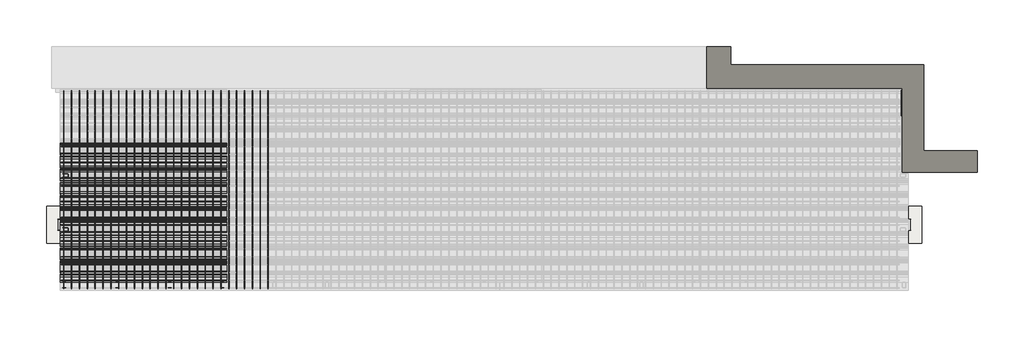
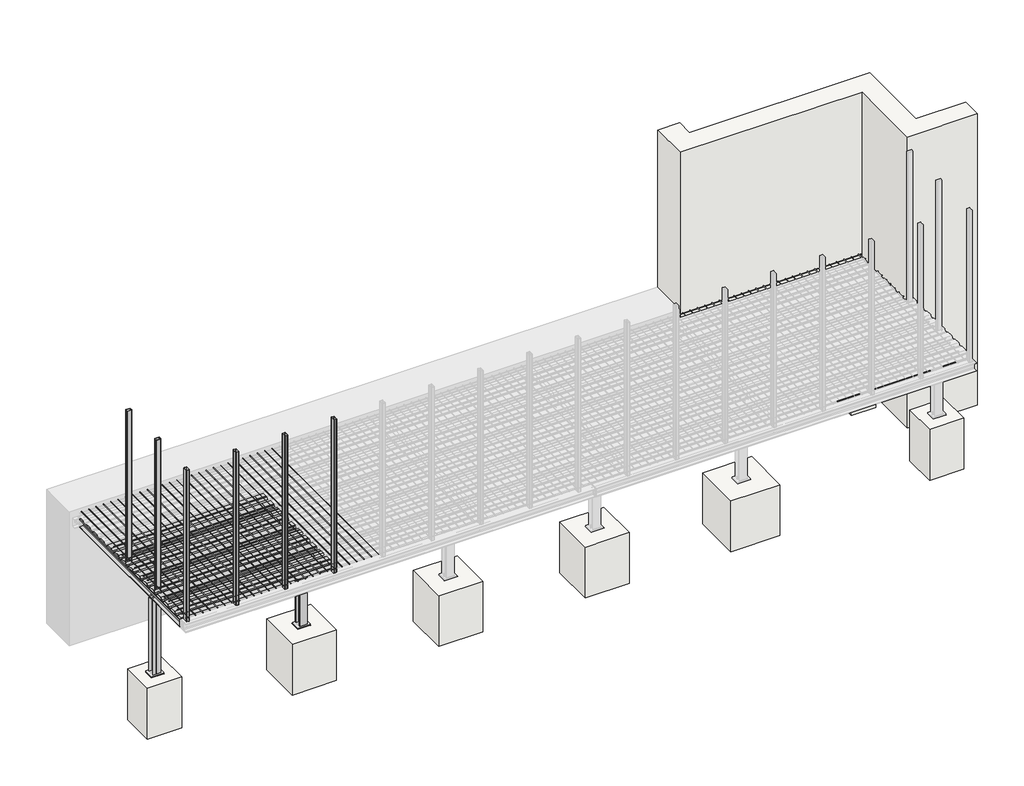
# One storey, part 1 of 36: 33 beams, 8 columns, 8 slabs, 2 plates.
"""IFC4 building model written with IfcOpenShell, lengths in millimetres."""

from ifc_helpers import new_model, si_unit, point, frame, frame_2d, origin, place, context, project, spatial, polyline, circle_curve, trimmed, segment, composite_curve, outline, extrude, faceted_brep, element, save

model = new_model("IFC4")

# Units and contexts
model_context = context("Model", 3, world=origin())
ifc_project = project(units=[si_unit("LENGTHUNIT", "METRE", prefix="MILLI")], contexts=[model_context])

# Site, building, storey
site = spatial("IfcSite", under=ifc_project)
building = spatial("IfcBuilding", under=site)
storey = spatial("IfcBuildingStorey", under=building, Name="Základy", Elevation=-1200.0)

# Beams
placement = place(None, origin())
element("IfcBeam", 1, ObjectType="D8", at=placement, inside=storey, context=model_context, shape_type="SweptSolid", body=[
    extrude(outline(composite_curve([segment(trimmed(circle_curve(frame_2d((-49.0, 27.5)), 4.0), [point((-49.0, 23.5))], [point((-49.0, 31.5))], False, "CARTESIAN"), True, "CONTINUOUS"), segment(trimmed(circle_curve(frame_2d((-49.0, 27.5)), 4.0), [point((-49.0, 31.5))], [point((-49.0, 23.5))], False, "CARTESIAN"), True, "CONTINUOUS")], self_intersect=False)), frame((0.0, 35.0, 0.0), z_axis=(0.0, 1.0, 0.0), x_axis=(0.0, 0.0, 1.0)), (0.0, 0.0, 1.0), 3780.0),
])
element("IfcBeam", 2, ObjectType="D8", at=placement, inside=storey, context=model_context, shape_type="SweptSolid", body=[
    extrude(outline(composite_curve([segment(trimmed(circle_curve(frame_2d((-49.0, 177.5)), 4.0), [point((-49.0, 173.5))], [point((-49.0, 181.5))], False, "CARTESIAN"), True, "CONTINUOUS"), segment(trimmed(circle_curve(frame_2d((-49.0, 177.5)), 4.0), [point((-49.0, 181.5))], [point((-49.0, 173.5))], False, "CARTESIAN"), True, "CONTINUOUS")], self_intersect=False)), frame((0.0, 35.0, 0.0), z_axis=(0.0, 1.0, 0.0), x_axis=(0.0, 0.0, 1.0)), (0.0, 0.0, 1.0), 3780.0),
])
element("IfcBeam", 3, ObjectType="D8", at=placement, inside=storey, context=model_context, shape_type="SweptSolid", body=[
    extrude(outline(composite_curve([segment(trimmed(circle_curve(frame_2d((-49.0, 327.5)), 4.0), [point((-49.0, 323.5))], [point((-49.0, 331.5))], False, "CARTESIAN"), True, "CONTINUOUS"), segment(trimmed(circle_curve(frame_2d((-49.0, 327.5)), 4.0), [point((-49.0, 331.5))], [point((-49.0, 323.5))], False, "CARTESIAN"), True, "CONTINUOUS")], self_intersect=False)), frame((0.0, 35.0, 0.0), z_axis=(0.0, 1.0, 0.0), x_axis=(0.0, 0.0, 1.0)), (0.0, 0.0, 1.0), 3780.0),
])
element("IfcBeam", 4, ObjectType="D8", at=placement, inside=storey, context=model_context, shape_type="SweptSolid", body=[
    extrude(outline(composite_curve([segment(trimmed(circle_curve(frame_2d((-49.0, 477.5)), 4.0), [point((-49.0, 473.5))], [point((-49.0, 481.5))], False, "CARTESIAN"), True, "CONTINUOUS"), segment(trimmed(circle_curve(frame_2d((-49.0, 477.5)), 4.0), [point((-49.0, 481.5))], [point((-49.0, 473.5))], False, "CARTESIAN"), True, "CONTINUOUS")], self_intersect=False)), frame((0.0, 35.0, 0.0), z_axis=(0.0, 1.0, 0.0), x_axis=(0.0, 0.0, 1.0)), (0.0, 0.0, 1.0), 3780.0),
])
element("IfcBeam", 5, ObjectType="D8", at=placement, inside=storey, context=model_context, shape_type="SweptSolid", body=[
    extrude(outline(composite_curve([segment(trimmed(circle_curve(frame_2d((-49.0, 627.5)), 4.0), [point((-49.0, 623.5))], [point((-49.0, 631.5))], False, "CARTESIAN"), True, "CONTINUOUS"), segment(trimmed(circle_curve(frame_2d((-49.0, 627.5)), 4.0), [point((-49.0, 631.5))], [point((-49.0, 623.5))], False, "CARTESIAN"), True, "CONTINUOUS")], self_intersect=False)), frame((0.0, 35.0, 0.0), z_axis=(0.0, 1.0, 0.0), x_axis=(0.0, 0.0, 1.0)), (0.0, 0.0, 1.0), 3780.0),
])
element("IfcBeam", 6, ObjectType="D8", at=placement, inside=storey, context=model_context, shape_type="SweptSolid", body=[
    extrude(outline(composite_curve([segment(trimmed(circle_curve(frame_2d((-49.0, 777.5)), 4.0), [point((-49.0, 773.5))], [point((-49.0, 781.5))], False, "CARTESIAN"), True, "CONTINUOUS"), segment(trimmed(circle_curve(frame_2d((-49.0, 777.5)), 4.0), [point((-49.0, 781.5))], [point((-49.0, 773.5))], False, "CARTESIAN"), True, "CONTINUOUS")], self_intersect=False)), frame((0.0, 35.0, 0.0), z_axis=(0.0, 1.0, 0.0), x_axis=(0.0, 0.0, 1.0)), (0.0, 0.0, 1.0), 3780.0),
])
element("IfcBeam", 7, ObjectType="D8", at=placement, inside=storey, context=model_context, shape_type="SweptSolid", body=[
    extrude(outline(composite_curve([segment(trimmed(circle_curve(frame_2d((-49.0, 927.5)), 4.0), [point((-49.0, 923.5))], [point((-49.0, 931.5))], False, "CARTESIAN"), True, "CONTINUOUS"), segment(trimmed(circle_curve(frame_2d((-49.0, 927.5)), 4.0), [point((-49.0, 931.5))], [point((-49.0, 923.5))], False, "CARTESIAN"), True, "CONTINUOUS")], self_intersect=False)), frame((0.0, 35.0, 0.0), z_axis=(0.0, 1.0, 0.0), x_axis=(0.0, 0.0, 1.0)), (0.0, 0.0, 1.0), 3780.0),
])
element("IfcBeam", 8, ObjectType="D8", at=placement, inside=storey, context=model_context, shape_type="SweptSolid", body=[
    extrude(outline(composite_curve([segment(trimmed(circle_curve(frame_2d((-49.0, 1077.5)), 4.0), [point((-49.0, 1073.5))], [point((-49.0, 1081.5))], False, "CARTESIAN"), True, "CONTINUOUS"), segment(trimmed(circle_curve(frame_2d((-49.0, 1077.5)), 4.0), [point((-49.0, 1081.5))], [point((-49.0, 1073.5))], False, "CARTESIAN"), True, "CONTINUOUS")], self_intersect=False)), frame((0.0, 35.0, 0.0), z_axis=(0.0, 1.0, 0.0), x_axis=(0.0, 0.0, 1.0)), (0.0, 0.0, 1.0), 3780.0),
])
element("IfcBeam", 9, ObjectType="D8", at=placement, inside=storey, context=model_context, shape_type="SweptSolid", body=[
    extrude(outline(composite_curve([segment(trimmed(circle_curve(frame_2d((-49.0, 1227.5)), 4.0), [point((-49.0, 1223.5))], [point((-49.0, 1231.5))], False, "CARTESIAN"), True, "CONTINUOUS"), segment(trimmed(circle_curve(frame_2d((-49.0, 1227.5)), 4.0), [point((-49.0, 1231.5))], [point((-49.0, 1223.5))], False, "CARTESIAN"), True, "CONTINUOUS")], self_intersect=False)), frame((0.0, 35.0, 0.0), z_axis=(0.0, 1.0, 0.0), x_axis=(0.0, 0.0, 1.0)), (0.0, 0.0, 1.0), 3780.0),
])
element("IfcBeam", 10, ObjectType="D8", at=placement, inside=storey, context=model_context, shape_type="SweptSolid", body=[
    extrude(outline(composite_curve([segment(trimmed(circle_curve(frame_2d((-49.0, 1377.5)), 4.0), [point((-49.0, 1373.5))], [point((-49.0, 1381.5))], False, "CARTESIAN"), True, "CONTINUOUS"), segment(trimmed(circle_curve(frame_2d((-49.0, 1377.5)), 4.0), [point((-49.0, 1381.5))], [point((-49.0, 1373.5))], False, "CARTESIAN"), True, "CONTINUOUS")], self_intersect=False)), frame((0.0, 35.0, 0.0), z_axis=(0.0, 1.0, 0.0), x_axis=(0.0, 0.0, 1.0)), (0.0, 0.0, 1.0), 3780.0),
])
element("IfcBeam", 11, ObjectType="D8", at=placement, inside=storey, context=model_context, shape_type="SweptSolid", body=[
    extrude(outline(composite_curve([segment(trimmed(circle_curve(frame_2d((-49.0, 1527.5)), 4.0), [point((-49.0, 1523.5))], [point((-49.0, 1531.5))], False, "CARTESIAN"), True, "CONTINUOUS"), segment(trimmed(circle_curve(frame_2d((-49.0, 1527.5)), 4.0), [point((-49.0, 1531.5))], [point((-49.0, 1523.5))], False, "CARTESIAN"), True, "CONTINUOUS")], self_intersect=False)), frame((0.0, 35.0, 0.0), z_axis=(0.0, 1.0, 0.0), x_axis=(0.0, 0.0, 1.0)), (0.0, 0.0, 1.0), 3780.0),
])
element("IfcBeam", 12, ObjectType="D8", at=placement, inside=storey, context=model_context, shape_type="SweptSolid", body=[
    extrude(outline(composite_curve([segment(trimmed(circle_curve(frame_2d((-49.0, 1677.5)), 4.0), [point((-49.0, 1673.5))], [point((-49.0, 1681.5))], False, "CARTESIAN"), True, "CONTINUOUS"), segment(trimmed(circle_curve(frame_2d((-49.0, 1677.5)), 4.0), [point((-49.0, 1681.5))], [point((-49.0, 1673.5))], False, "CARTESIAN"), True, "CONTINUOUS")], self_intersect=False)), frame((0.0, 35.0, 0.0), z_axis=(0.0, 1.0, 0.0), x_axis=(0.0, 0.0, 1.0)), (0.0, 0.0, 1.0), 3780.0),
])
element("IfcBeam", 13, ObjectType="D8", at=placement, inside=storey, context=model_context, shape_type="SweptSolid", body=[
    extrude(outline(composite_curve([segment(trimmed(circle_curve(frame_2d((-49.0, 1827.5)), 4.0), [point((-49.0, 1823.5))], [point((-49.0, 1831.5))], False, "CARTESIAN"), True, "CONTINUOUS"), segment(trimmed(circle_curve(frame_2d((-49.0, 1827.5)), 4.0), [point((-49.0, 1831.5))], [point((-49.0, 1823.5))], False, "CARTESIAN"), True, "CONTINUOUS")], self_intersect=False)), frame((0.0, 35.0, 0.0), z_axis=(0.0, 1.0, 0.0), x_axis=(0.0, 0.0, 1.0)), (0.0, 0.0, 1.0), 3780.0),
])
element("IfcBeam", 14, ObjectType="D8", at=placement, inside=storey, context=model_context, shape_type="SweptSolid", body=[
    extrude(outline(composite_curve([segment(trimmed(circle_curve(frame_2d((-49.0, 1977.5)), 4.0), [point((-49.0, 1973.5))], [point((-49.0, 1981.5))], False, "CARTESIAN"), True, "CONTINUOUS"), segment(trimmed(circle_curve(frame_2d((-49.0, 1977.5)), 4.0), [point((-49.0, 1981.5))], [point((-49.0, 1973.5))], False, "CARTESIAN"), True, "CONTINUOUS")], self_intersect=False)), frame((0.0, 35.0, 0.0), z_axis=(0.0, 1.0, 0.0), x_axis=(0.0, 0.0, 1.0)), (0.0, 0.0, 1.0), 3780.0),
])
element("IfcBeam", 15, ObjectType="D8", at=placement, inside=storey, context=model_context, shape_type="SweptSolid", body=[
    extrude(outline(composite_curve([segment(trimmed(circle_curve(frame_2d((-49.0, 2127.5)), 4.0), [point((-49.0, 2123.5))], [point((-49.0, 2131.5))], False, "CARTESIAN"), True, "CONTINUOUS"), segment(trimmed(circle_curve(frame_2d((-49.0, 2127.5)), 4.0), [point((-49.0, 2131.5))], [point((-49.0, 2123.5))], False, "CARTESIAN"), True, "CONTINUOUS")], self_intersect=False)), frame((0.0, 35.0, 0.0), z_axis=(0.0, 1.0, 0.0), x_axis=(0.0, 0.0, 1.0)), (0.0, 0.0, 1.0), 3780.0),
])
element("IfcBeam", 16, ObjectType="D8", at=placement, inside=storey, context=model_context, shape_type="SweptSolid", body=[
    extrude(outline(composite_curve([segment(trimmed(circle_curve(frame_2d((-49.0, 2277.5)), 4.0), [point((-49.0, 2273.5))], [point((-49.0, 2281.5))], False, "CARTESIAN"), True, "CONTINUOUS"), segment(trimmed(circle_curve(frame_2d((-49.0, 2277.5)), 4.0), [point((-49.0, 2281.5))], [point((-49.0, 2273.5))], False, "CARTESIAN"), True, "CONTINUOUS")], self_intersect=False)), frame((0.0, 35.0, 0.0), z_axis=(0.0, 1.0, 0.0), x_axis=(0.0, 0.0, 1.0)), (0.0, 0.0, 1.0), 3780.0),
])
element("IfcBeam", 17, ObjectType="D8", at=placement, inside=storey, context=model_context, shape_type="SweptSolid", body=[
    extrude(outline(composite_curve([segment(trimmed(circle_curve(frame_2d((-49.0, 2427.5)), 4.0), [point((-49.0, 2423.5))], [point((-49.0, 2431.5))], False, "CARTESIAN"), True, "CONTINUOUS"), segment(trimmed(circle_curve(frame_2d((-49.0, 2427.5)), 4.0), [point((-49.0, 2431.5))], [point((-49.0, 2423.5))], False, "CARTESIAN"), True, "CONTINUOUS")], self_intersect=False)), frame((0.0, 35.0, 0.0), z_axis=(0.0, 1.0, 0.0), x_axis=(0.0, 0.0, 1.0)), (0.0, 0.0, 1.0), 3780.0),
])
element("IfcBeam", 18, ObjectType="D8", at=placement, inside=storey, context=model_context, shape_type="SweptSolid", body=[
    extrude(outline(composite_curve([segment(trimmed(circle_curve(frame_2d((-49.0, 2577.5)), 4.0), [point((-49.0, 2573.5))], [point((-49.0, 2581.5))], False, "CARTESIAN"), True, "CONTINUOUS"), segment(trimmed(circle_curve(frame_2d((-49.0, 2577.5)), 4.0), [point((-49.0, 2581.5))], [point((-49.0, 2573.5))], False, "CARTESIAN"), True, "CONTINUOUS")], self_intersect=False)), frame((0.0, 35.0, 0.0), z_axis=(0.0, 1.0, 0.0), x_axis=(0.0, 0.0, 1.0)), (0.0, 0.0, 1.0), 3780.0),
])
element("IfcBeam", 19, ObjectType="D8", at=placement, inside=storey, context=model_context, shape_type="SweptSolid", body=[
    extrude(outline(composite_curve([segment(trimmed(circle_curve(frame_2d((-49.0, 2727.5)), 4.0), [point((-49.0, 2723.5))], [point((-49.0, 2731.5))], False, "CARTESIAN"), True, "CONTINUOUS"), segment(trimmed(circle_curve(frame_2d((-49.0, 2727.5)), 4.0), [point((-49.0, 2731.5))], [point((-49.0, 2723.5))], False, "CARTESIAN"), True, "CONTINUOUS")], self_intersect=False)), frame((0.0, 35.0, 0.0), z_axis=(0.0, 1.0, 0.0), x_axis=(0.0, 0.0, 1.0)), (0.0, 0.0, 1.0), 3780.0),
])
element("IfcBeam", 20, ObjectType="D8", at=placement, inside=storey, context=model_context, shape_type="SweptSolid", body=[
    extrude(outline(composite_curve([segment(trimmed(circle_curve(frame_2d((-49.0, 2877.5)), 4.0), [point((-49.0, 2873.5))], [point((-49.0, 2881.5))], False, "CARTESIAN"), True, "CONTINUOUS"), segment(trimmed(circle_curve(frame_2d((-49.0, 2877.5)), 4.0), [point((-49.0, 2881.5))], [point((-49.0, 2873.5))], False, "CARTESIAN"), True, "CONTINUOUS")], self_intersect=False)), frame((0.0, 35.0, 0.0), z_axis=(0.0, 1.0, 0.0), x_axis=(0.0, 0.0, 1.0)), (0.0, 0.0, 1.0), 3780.0),
])
element("IfcBeam", 21, ObjectType="D8", at=placement, inside=storey, context=model_context, shape_type="SweptSolid", body=[
    extrude(outline(composite_curve([segment(trimmed(circle_curve(frame_2d((-49.0, 3027.5)), 4.0), [point((-49.0, 3023.5))], [point((-49.0, 3031.5))], False, "CARTESIAN"), True, "CONTINUOUS"), segment(trimmed(circle_curve(frame_2d((-49.0, 3027.5)), 4.0), [point((-49.0, 3031.5))], [point((-49.0, 3023.5))], False, "CARTESIAN"), True, "CONTINUOUS")], self_intersect=False)), frame((0.0, 35.0, 0.0), z_axis=(0.0, 1.0, 0.0), x_axis=(0.0, 0.0, 1.0)), (0.0, 0.0, 1.0), 3780.0),
])
element("IfcBeam", 22, ObjectType="D8", at=placement, inside=storey, context=model_context, shape_type="SweptSolid", body=[
    extrude(outline(composite_curve([segment(trimmed(circle_curve(frame_2d((-49.0, 3177.5)), 4.0), [point((-49.0, 3173.5))], [point((-49.0, 3181.5))], False, "CARTESIAN"), True, "CONTINUOUS"), segment(trimmed(circle_curve(frame_2d((-49.0, 3177.5)), 4.0), [point((-49.0, 3181.5))], [point((-49.0, 3173.5))], False, "CARTESIAN"), True, "CONTINUOUS")], self_intersect=False)), frame((0.0, 35.0, 0.0), z_axis=(0.0, 1.0, 0.0), x_axis=(0.0, 0.0, 1.0)), (0.0, 0.0, 1.0), 3780.0),
])
element("IfcBeam", 23, ObjectType="D8", at=placement, inside=storey, context=model_context, shape_type="SweptSolid", body=[
    extrude(outline(composite_curve([segment(trimmed(circle_curve(frame_2d((-49.0, 3327.5)), 4.0), [point((-49.0, 3323.5))], [point((-49.0, 3331.5))], False, "CARTESIAN"), True, "CONTINUOUS"), segment(trimmed(circle_curve(frame_2d((-49.0, 3327.5)), 4.0), [point((-49.0, 3331.5))], [point((-49.0, 3323.5))], False, "CARTESIAN"), True, "CONTINUOUS")], self_intersect=False)), frame((0.0, 35.0, 0.0), z_axis=(0.0, 1.0, 0.0), x_axis=(0.0, 0.0, 1.0)), (0.0, 0.0, 1.0), 3780.0),
])
element("IfcBeam", 24, ObjectType="D8", at=placement, inside=storey, context=model_context, shape_type="SweptSolid", body=[
    extrude(outline(composite_curve([segment(trimmed(circle_curve(frame_2d((-49.0, 3477.5)), 4.0), [point((-49.0, 3473.5))], [point((-49.0, 3481.5))], False, "CARTESIAN"), True, "CONTINUOUS"), segment(trimmed(circle_curve(frame_2d((-49.0, 3477.5)), 4.0), [point((-49.0, 3481.5))], [point((-49.0, 3473.5))], False, "CARTESIAN"), True, "CONTINUOUS")], self_intersect=False)), frame((0.0, 35.0, 0.0), z_axis=(0.0, 1.0, 0.0), x_axis=(0.0, 0.0, 1.0)), (0.0, 0.0, 1.0), 3780.0),
])
element("IfcBeam", 25, ObjectType="D8", at=placement, inside=storey, context=model_context, shape_type="SweptSolid", body=[
    extrude(outline(composite_curve([segment(trimmed(circle_curve(frame_2d((-49.0, 3627.5)), 4.0), [point((-49.0, 3623.5))], [point((-49.0, 3631.5))], False, "CARTESIAN"), True, "CONTINUOUS"), segment(trimmed(circle_curve(frame_2d((-49.0, 3627.5)), 4.0), [point((-49.0, 3631.5))], [point((-49.0, 3623.5))], False, "CARTESIAN"), True, "CONTINUOUS")], self_intersect=False)), frame((0.0, 35.0, 0.0), z_axis=(0.0, 1.0, 0.0), x_axis=(0.0, 0.0, 1.0)), (0.0, 0.0, 1.0), 3780.0),
])
element("IfcBeam", 26, ObjectType="D8", at=placement, inside=storey, context=model_context, shape_type="SweptSolid", body=[
    extrude(outline(composite_curve([segment(trimmed(circle_curve(frame_2d((-49.0, 3777.5)), 4.0), [point((-49.0, 3773.5))], [point((-49.0, 3781.5))], False, "CARTESIAN"), True, "CONTINUOUS"), segment(trimmed(circle_curve(frame_2d((-49.0, 3777.5)), 4.0), [point((-49.0, 3781.5))], [point((-49.0, 3773.5))], False, "CARTESIAN"), True, "CONTINUOUS")], self_intersect=False)), frame((0.0, 35.0, 0.0), z_axis=(0.0, 1.0, 0.0), x_axis=(0.0, 0.0, 1.0)), (0.0, 0.0, 1.0), 3780.0),
])
element("IfcBeam", 27, ObjectType="D8", at=placement, inside=storey, context=model_context, shape_type="SweptSolid", body=[
    extrude(outline(composite_curve([segment(trimmed(circle_curve(frame_2d((-49.0, 3927.5)), 4.0), [point((-49.0, 3923.5))], [point((-49.0, 3931.5))], False, "CARTESIAN"), True, "CONTINUOUS"), segment(trimmed(circle_curve(frame_2d((-49.0, 3927.5)), 4.0), [point((-49.0, 3931.5))], [point((-49.0, 3923.5))], False, "CARTESIAN"), True, "CONTINUOUS")], self_intersect=False)), frame((0.0, 35.0, 0.0), z_axis=(0.0, 1.0, 0.0), x_axis=(0.0, 0.0, 1.0)), (0.0, 0.0, 1.0), 3780.0),
])
element("IfcBeam", 28, ObjectType="HEA120", at=placement, inside=storey, context=model_context, shape_type="SweptSolid", body=[
    extrude(outline(composite_curve([segment(polyline([(1200.0, -193.0), (1320.0, -193.0), (1320.0, -201.0), (1274.5, -201.0)]), True, "CONTINUOUS"), segment(trimmed(circle_curve(frame_2d((1274.5, -213.0)), 12.0), [point((1274.5, -201.0))], [point((1262.5, -213.0))], True, "CARTESIAN"), True, "CONTINUOUS"), segment(polyline([(1262.5, -213.0), (1262.5, -287.0)]), True, "CONTINUOUS"), segment(trimmed(circle_curve(frame_2d((1274.5, -287.0)), 12.0), [point((1262.5, -287.0))], [point((1274.5, -299.0))], True, "CARTESIAN"), True, "CONTINUOUS"), segment(polyline([(1274.5, -299.0), (1320.0, -299.0), (1320.0, -307.0), (1200.0, -307.0), (1200.0, -299.0), (1245.5, -299.0)]), True, "CONTINUOUS"), segment(trimmed(circle_curve(frame_2d((1245.5, -287.0)), 12.0), [point((1245.5, -299.0))], [point((1257.5, -287.0))], True, "CARTESIAN"), True, "CONTINUOUS"), segment(polyline([(1257.5, -287.0), (1257.5, -213.0)]), True, "CONTINUOUS"), segment(trimmed(circle_curve(frame_2d((1245.5, -213.0)), 12.0), [point((1257.5, -213.0))], [point((1245.5, -201.0))], True, "CARTESIAN"), True, "CONTINUOUS"), segment(polyline([(1245.5, -201.0), (1200.0, -201.0), (1200.0, -193.0)]), True, "CONTINUOUS")], self_intersect=False)), frame((160.0, 0.0, 0.0), z_axis=(1.0, 0.0, 0.0), x_axis=(0.0, 1.0, 0.0)), (0.0, 0.0, 1.0), 2780.0),
])
element("IfcBeam", 29, ObjectType="HEB180", at=placement, inside=storey, context=model_context, shape_type="SweptSolid", body=[
    extrude(outline(composite_curve([segment(polyline([(-340.0, 3140.0), (-326.0, 3140.0), (-326.0, 3069.25)]), True, "CONTINUOUS"), segment(trimmed(circle_curve(frame_2d((-311.0, 3069.25)), 15.0), [point((-326.0, 3069.25))], [point((-311.0, 3054.25))], True, "CARTESIAN"), True, "CONTINUOUS"), segment(polyline([(-311.0, 3054.25), (-189.0, 3054.25)]), True, "CONTINUOUS"), segment(trimmed(circle_curve(frame_2d((-189.0, 3069.25)), 15.0), [point((-189.0, 3054.25))], [point((-174.0, 3069.25))], True, "CARTESIAN"), True, "CONTINUOUS"), segment(polyline([(-174.0, 3069.25), (-174.0, 3140.0), (-160.0, 3140.0), (-160.0, 2960.0), (-174.0, 2960.0), (-174.0, 3030.75)]), True, "CONTINUOUS"), segment(trimmed(circle_curve(frame_2d((-189.0, 3030.75)), 15.0), [point((-174.0, 3030.75))], [point((-189.0, 3045.75))], True, "CARTESIAN"), True, "CONTINUOUS"), segment(polyline([(-189.0, 3045.75), (-311.0, 3045.75)]), True, "CONTINUOUS"), segment(trimmed(circle_curve(frame_2d((-311.0, 3030.75)), 15.0), [point((-311.0, 3045.75))], [point((-326.0, 3030.75))], True, "CARTESIAN"), True, "CONTINUOUS"), segment(polyline([(-326.0, 3030.75), (-326.0, 2960.0), (-340.0, 2960.0), (-340.0, 3140.0)]), True, "CONTINUOUS")], self_intersect=False)), frame((0.0, 210.0, 0.0), z_axis=(0.0, 1.0, 0.0), x_axis=(0.0, 0.0, 1.0)), (0.0, 0.0, 1.0), 3557.0),
])
element("IfcBeam", 30, ObjectType="HEB180", at=placement, inside=storey, context=model_context, shape_type="SweptSolid", body=[
    extrude(outline(composite_curve([segment(polyline([(-340.0, -40.0), (-340.0, 140.0), (-326.0, 140.0), (-326.0, 69.25)]), True, "CONTINUOUS"), segment(trimmed(circle_curve(frame_2d((-311.0, 69.25)), 15.0), [point((-326.0, 69.25))], [point((-311.0, 54.25))], True, "CARTESIAN"), True, "CONTINUOUS"), segment(polyline([(-311.0, 54.25), (-189.0, 54.25)]), True, "CONTINUOUS"), segment(trimmed(circle_curve(frame_2d((-189.0, 69.25)), 15.0), [point((-189.0, 54.25))], [point((-174.0, 69.25))], True, "CARTESIAN"), True, "CONTINUOUS"), segment(polyline([(-174.0, 69.25), (-174.0, 140.0), (-160.0, 140.0), (-160.0, -40.0), (-174.0, -40.0), (-174.0, 30.75)]), True, "CONTINUOUS"), segment(trimmed(circle_curve(frame_2d((-189.0, 30.75)), 15.0), [point((-174.0, 30.75))], [point((-189.0, 45.75))], True, "CARTESIAN"), True, "CONTINUOUS"), segment(polyline([(-189.0, 45.75), (-311.0, 45.75)]), True, "CONTINUOUS"), segment(trimmed(circle_curve(frame_2d((-311.0, 30.75)), 15.0), [point((-311.0, 45.75))], [point((-326.0, 30.75))], True, "CARTESIAN"), True, "CONTINUOUS"), segment(polyline([(-326.0, 30.75), (-326.0, -40.0), (-340.0, -40.0)]), True, "CONTINUOUS")], self_intersect=False)), frame((0.0, 210.0, 0.0), z_axis=(0.0, 1.0, 0.0), x_axis=(0.0, 0.0, 1.0)), (0.0, 0.0, 1.0), 3557.0),
])
element("IfcBeam", 31, ObjectType="TR50/250", at=placement, inside=storey, context=model_context, shape_type="SweptSolid", body=[
    extrude(outline(polyline([(2802.7875602, -160.0099992), (2772.2875602, -111.5000008), (2637.6975638, -111.5000008), (2607.1975638, -160.0000008), (2552.7875754, -160.0000008), (2522.2875754, -111.5000008), (2387.6975715, -111.5000008), (2357.1975715, -160.0000008), (2302.7875697, -160.0000008), (2272.2875716, -111.5000008), (2137.6975638, -111.5000008), (2107.1975638, -160.0000008), (2052.7875602, -160.0000008), (2022.2875602, -111.5000008), (1887.6975638, -111.5000008), (1857.1975638, -160.0000008), (1802.7875602, -160.0000008), (1790.7375724, -139.4300002), (1803.1975638, -159.2500008), (1856.7875602, -159.2500008), (1887.2875602, -110.7500008), (2022.6975638, -110.7500008), (2053.1975638, -159.2500008), (2106.7875754, -159.2500008), (2137.2875754, -110.7500008), (2272.6975715, -110.7500008), (2303.1975695, -159.2500008), (2356.7875716, -159.2500008), (2387.2875678, -110.7500008), (2522.6975638, -110.7500008), (2553.1975638, -159.2500008), (2606.7875602, -159.2500008), (2637.2875602, -110.7500008), (2772.6975638, -110.7500008), (2803.1975638, -159.2500008), (2839.9975821, -160.0000008), (2802.7875602, -160.0099992)])), frame((-40.0, 0.0, 0.0), z_axis=(1.0, 0.0, 0.0), x_axis=(0.0, 1.0, 0.0)), (0.0, 0.0, 1.0), 3180.0),
])
element("IfcBeam", 32, ObjectType="TR50/250", at=placement, inside=storey, context=model_context, shape_type="SweptSolid", body=[
    extrude(outline(polyline([(1802.7875602, -160.0099992), (1772.2875602, -111.5000008), (1637.6975638, -111.5000008), (1607.1975638, -160.0000008), (1552.7875754, -160.0000008), (1522.2875754, -111.5000008), (1387.6975715, -111.5000008), (1357.1975715, -160.0000008), (1302.7875697, -160.0000008), (1272.2875716, -111.5000008), (1137.6975638, -111.5000008), (1107.1975638, -160.0000008), (1052.7875602, -160.0000008), (1022.2875602, -111.5000008), (887.6975638, -111.5000008), (857.1975638, -160.0000008), (802.7875602, -160.0000008), (790.7375724, -139.4300002), (803.1975638, -159.2500008), (856.7875602, -159.2500008), (887.2875602, -110.7500008), (1022.6975638, -110.7500008), (1053.1975638, -159.2500008), (1106.7875754, -159.2500008), (1137.2875754, -110.7500008), (1272.6975715, -110.7500008), (1303.1975695, -159.2500008), (1356.7875716, -159.2500008), (1387.2875678, -110.7500008), (1522.6975638, -110.7500008), (1553.1975638, -159.2500008), (1606.7875602, -159.2500008), (1637.2875602, -110.7500008), (1772.6975638, -110.7500008), (1803.1975638, -159.2500008), (1839.9975821, -160.0000008), (1802.7875602, -160.0099992)])), frame((-40.0, 0.0, 0.0), z_axis=(1.0, 0.0, 0.0), x_axis=(0.0, 1.0, 0.0)), (0.0, 0.0, 1.0), 3180.0),
])
element("IfcBeam", 33, ObjectType="TR50/250", at=placement, inside=storey, context=model_context, shape_type="SweptSolid", body=[
    extrude(outline(polyline([(802.7875602, -160.0099992), (772.2875602, -111.5000008), (637.6975638, -111.5000008), (607.1975638, -160.0000008), (552.7875754, -160.0000008), (522.2875754, -111.5000008), (387.6975715, -111.5000008), (357.1975715, -160.0000008), (302.7875697, -160.0000008), (272.2875716, -111.5000008), (160.0, -111.5000008), (160.0, -110.7500008), (272.6975715, -110.7500008), (303.1975695, -159.2500008), (356.7875716, -159.2500008), (387.2875678, -110.7500008), (522.6975638, -110.7500008), (553.1975638, -159.2500008), (606.7875602, -159.2500008), (637.2875602, -110.7500008), (772.6975638, -110.7500008), (803.1975638, -159.2500008), (839.9975821, -160.0000008), (802.7875602, -160.0099992)])), frame((-40.0, 0.0, 0.0), z_axis=(1.0, 0.0, 0.0), x_axis=(0.0, 1.0, 0.0)), (0.0, 0.0, 1.0), 3180.0),
])

# Columns
element("IfcColumn", 34, ObjectType="RHS100*60*3.2", at=placement, inside=storey, context=model_context, shape_type="SweptSolid", body=[
    extrude(outline(composite_curve([segment(polyline([(3073.6, 60.0), (3026.4, 60.0)]), True, "CONTINUOUS"), segment(trimmed(circle_curve(frame_2d((3026.4, 66.4)), 6.4), [point((3026.4, 60.0))], [point((3020.0, 66.4))], False, "CARTESIAN"), True, "CONTINUOUS"), segment(polyline([(3020.0, 66.4), (3020.0, 153.6)]), True, "CONTINUOUS"), segment(trimmed(circle_curve(frame_2d((3026.4, 153.6)), 6.4), [point((3020.0, 153.6))], [point((3026.4, 160.0))], False, "CARTESIAN"), True, "CONTINUOUS"), segment(polyline([(3026.4, 160.0), (3073.6, 160.0)]), True, "CONTINUOUS"), segment(trimmed(circle_curve(frame_2d((3073.6, 153.6)), 6.4), [point((3073.6, 160.0))], [point((3080.0, 153.6))], False, "CARTESIAN"), True, "CONTINUOUS"), segment(polyline([(3080.0, 153.6), (3080.0, 66.4)]), True, "CONTINUOUS"), segment(trimmed(circle_curve(frame_2d((3073.6, 66.4)), 6.4), [point((3080.0, 66.4))], [point((3073.6, 60.0))], False, "CARTESIAN"), True, "CONTINUOUS")], self_intersect=False), holes=[composite_curve([segment(trimmed(circle_curve(frame_2d((3073.6, 66.4)), 3.2), [point((3073.6, 63.2))], [point((3076.8, 66.4))], True, "CARTESIAN"), True, "CONTINUOUS"), segment(polyline([(3076.8, 66.4), (3076.8, 153.6)]), True, "CONTINUOUS"), segment(trimmed(circle_curve(frame_2d((3073.6, 153.6)), 3.2), [point((3076.8, 153.6))], [point((3073.6, 156.8))], True, "CARTESIAN"), True, "CONTINUOUS"), segment(polyline([(3073.6, 156.8), (3026.4, 156.8)]), True, "CONTINUOUS"), segment(trimmed(circle_curve(frame_2d((3026.4, 153.6)), 3.2), [point((3026.4, 156.8))], [point((3023.2, 153.6))], True, "CARTESIAN"), True, "CONTINUOUS"), segment(polyline([(3023.2, 153.6), (3023.2, 66.4)]), True, "CONTINUOUS"), segment(trimmed(circle_curve(frame_2d((3026.4, 66.4)), 3.2), [point((3023.2, 66.4))], [point((3026.4, 63.2))], True, "CARTESIAN"), True, "CONTINUOUS"), segment(polyline([(3026.4, 63.2), (3073.6, 63.2)]), True, "CONTINUOUS")], self_intersect=False)]), frame((0.0, 0.0, -160.0), z_axis=(0.0, 0.0, 1.0), x_axis=(1.0, 0.0, 0.0)), (0.0, 0.0, 1.0), 3320.0),
])
element("IfcColumn", 35, ObjectType="RHS100*60*3.2", at=placement, inside=storey, context=model_context, shape_type="SweptSolid", body=[
    extrude(outline(composite_curve([segment(polyline([(10.0, 1146.4), (10.0, 1193.6)]), True, "CONTINUOUS"), segment(trimmed(circle_curve(frame_2d((16.4, 1193.6)), 6.4), [point((10.0, 1193.6))], [point((16.4, 1200.0))], False, "CARTESIAN"), True, "CONTINUOUS"), segment(polyline([(16.4, 1200.0), (103.6, 1200.0)]), True, "CONTINUOUS"), segment(trimmed(circle_curve(frame_2d((103.6, 1193.6)), 6.4), [point((103.6, 1200.0))], [point((110.0, 1193.6))], False, "CARTESIAN"), True, "CONTINUOUS"), segment(polyline([(110.0, 1193.6), (110.0, 1146.4)]), True, "CONTINUOUS"), segment(trimmed(circle_curve(frame_2d((103.6, 1146.4)), 6.4), [point((110.0, 1146.4))], [point((103.6, 1140.0))], False, "CARTESIAN"), True, "CONTINUOUS"), segment(polyline([(103.6, 1140.0), (16.4, 1140.0)]), True, "CONTINUOUS"), segment(trimmed(circle_curve(frame_2d((16.4, 1146.4)), 6.4), [point((16.4, 1140.0))], [point((10.0, 1146.4))], False, "CARTESIAN"), True, "CONTINUOUS")], self_intersect=False), holes=[composite_curve([segment(trimmed(circle_curve(frame_2d((16.4, 1146.4)), 3.2), [point((13.2, 1146.4))], [point((16.4, 1143.2))], True, "CARTESIAN"), True, "CONTINUOUS"), segment(polyline([(16.4, 1143.2), (103.6, 1143.2)]), True, "CONTINUOUS"), segment(trimmed(circle_curve(frame_2d((103.6, 1146.4)), 3.2), [point((103.6, 1143.2))], [point((106.8, 1146.4))], True, "CARTESIAN"), True, "CONTINUOUS"), segment(polyline([(106.8, 1146.4), (106.8, 1193.6)]), True, "CONTINUOUS"), segment(trimmed(circle_curve(frame_2d((103.6, 1193.6)), 3.2), [point((106.8, 1193.6))], [point((103.6, 1196.8))], True, "CARTESIAN"), True, "CONTINUOUS"), segment(polyline([(103.6, 1196.8), (16.4, 1196.8)]), True, "CONTINUOUS"), segment(trimmed(circle_curve(frame_2d((16.4, 1193.6)), 3.2), [point((16.4, 1196.8))], [point((13.2, 1193.6))], True, "CARTESIAN"), True, "CONTINUOUS"), segment(polyline([(13.2, 1193.6), (13.2, 1146.4)]), True, "CONTINUOUS")], self_intersect=False)]), frame((0.0, 0.0, -160.0), z_axis=(0.0, 0.0, 1.0), x_axis=(1.0, 0.0, 0.0)), (0.0, 0.0, 1.0), 3280.0),
])
element("IfcColumn", 36, ObjectType="RHS100*60*3.2", at=placement, inside=storey, context=model_context, shape_type="SweptSolid", body=[
    extrude(outline(composite_curve([segment(polyline([(2073.6, 60.0), (2026.4, 60.0)]), True, "CONTINUOUS"), segment(trimmed(circle_curve(frame_2d((2026.4, 66.4)), 6.4), [point((2026.4, 60.0))], [point((2020.0, 66.4))], False, "CARTESIAN"), True, "CONTINUOUS"), segment(polyline([(2020.0, 66.4), (2020.0, 153.6)]), True, "CONTINUOUS"), segment(trimmed(circle_curve(frame_2d((2026.4, 153.6)), 6.4), [point((2020.0, 153.6))], [point((2026.4, 160.0))], False, "CARTESIAN"), True, "CONTINUOUS"), segment(polyline([(2026.4, 160.0), (2073.6, 160.0)]), True, "CONTINUOUS"), segment(trimmed(circle_curve(frame_2d((2073.6, 153.6)), 6.4), [point((2073.6, 160.0))], [point((2080.0, 153.6))], False, "CARTESIAN"), True, "CONTINUOUS"), segment(polyline([(2080.0, 153.6), (2080.0, 66.4)]), True, "CONTINUOUS"), segment(trimmed(circle_curve(frame_2d((2073.6, 66.4)), 6.4), [point((2080.0, 66.4))], [point((2073.6, 60.0))], False, "CARTESIAN"), True, "CONTINUOUS")], self_intersect=False), holes=[composite_curve([segment(trimmed(circle_curve(frame_2d((2073.6, 66.4)), 3.2), [point((2073.6, 63.2))], [point((2076.8, 66.4))], True, "CARTESIAN"), True, "CONTINUOUS"), segment(polyline([(2076.8, 66.4), (2076.8, 153.6)]), True, "CONTINUOUS"), segment(trimmed(circle_curve(frame_2d((2073.6, 153.6)), 3.2), [point((2076.8, 153.6))], [point((2073.6, 156.8))], True, "CARTESIAN"), True, "CONTINUOUS"), segment(polyline([(2073.6, 156.8), (2026.4, 156.8)]), True, "CONTINUOUS"), segment(trimmed(circle_curve(frame_2d((2026.4, 153.6)), 3.2), [point((2026.4, 156.8))], [point((2023.2, 153.6))], True, "CARTESIAN"), True, "CONTINUOUS"), segment(polyline([(2023.2, 153.6), (2023.2, 66.4)]), True, "CONTINUOUS"), segment(trimmed(circle_curve(frame_2d((2026.4, 66.4)), 3.2), [point((2023.2, 66.4))], [point((2026.4, 63.2))], True, "CARTESIAN"), True, "CONTINUOUS"), segment(polyline([(2026.4, 63.2), (2073.6, 63.2)]), True, "CONTINUOUS")], self_intersect=False)]), frame((0.0, 0.0, -160.0), z_axis=(0.0, 0.0, 1.0), x_axis=(1.0, 0.0, 0.0)), (0.0, 0.0, 1.0), 3320.0),
])
element("IfcColumn", 37, ObjectType="RHS100*60*3.2", at=placement, inside=storey, context=model_context, shape_type="SweptSolid", body=[
    extrude(outline(composite_curve([segment(polyline([(1073.6, 60.0), (1026.4, 60.0)]), True, "CONTINUOUS"), segment(trimmed(circle_curve(frame_2d((1026.4, 66.4)), 6.4), [point((1026.4, 60.0))], [point((1020.0, 66.4))], False, "CARTESIAN"), True, "CONTINUOUS"), segment(polyline([(1020.0, 66.4), (1020.0, 153.6)]), True, "CONTINUOUS"), segment(trimmed(circle_curve(frame_2d((1026.4, 153.6)), 6.4), [point((1020.0, 153.6))], [point((1026.4, 160.0))], False, "CARTESIAN"), True, "CONTINUOUS"), segment(polyline([(1026.4, 160.0), (1073.6, 160.0)]), True, "CONTINUOUS"), segment(trimmed(circle_curve(frame_2d((1073.6, 153.6)), 6.4), [point((1073.6, 160.0))], [point((1080.0, 153.6))], False, "CARTESIAN"), True, "CONTINUOUS"), segment(polyline([(1080.0, 153.6), (1080.0, 66.4)]), True, "CONTINUOUS"), segment(trimmed(circle_curve(frame_2d((1073.6, 66.4)), 6.4), [point((1080.0, 66.4))], [point((1073.6, 60.0))], False, "CARTESIAN"), True, "CONTINUOUS")], self_intersect=False), holes=[composite_curve([segment(trimmed(circle_curve(frame_2d((1073.6, 66.4)), 3.2), [point((1073.6, 63.2))], [point((1076.8, 66.4))], True, "CARTESIAN"), True, "CONTINUOUS"), segment(polyline([(1076.8, 66.4), (1076.8, 153.6)]), True, "CONTINUOUS"), segment(trimmed(circle_curve(frame_2d((1073.6, 153.6)), 3.2), [point((1076.8, 153.6))], [point((1073.6, 156.8))], True, "CARTESIAN"), True, "CONTINUOUS"), segment(polyline([(1073.6, 156.8), (1026.4, 156.8)]), True, "CONTINUOUS"), segment(trimmed(circle_curve(frame_2d((1026.4, 153.6)), 3.2), [point((1026.4, 156.8))], [point((1023.2, 153.6))], True, "CARTESIAN"), True, "CONTINUOUS"), segment(polyline([(1023.2, 153.6), (1023.2, 66.4)]), True, "CONTINUOUS"), segment(trimmed(circle_curve(frame_2d((1026.4, 66.4)), 3.2), [point((1023.2, 66.4))], [point((1026.4, 63.2))], True, "CARTESIAN"), True, "CONTINUOUS"), segment(polyline([(1026.4, 63.2), (1073.6, 63.2)]), True, "CONTINUOUS")], self_intersect=False)]), frame((0.0, 0.0, -160.0), z_axis=(0.0, 0.0, 1.0), x_axis=(1.0, 0.0, 0.0)), (0.0, 0.0, 1.0), 3320.0),
])
element("IfcColumn", 38, ObjectType="RHS100*60*3.2", at=placement, inside=storey, context=model_context, shape_type="SweptSolid", body=[
    extrude(outline(composite_curve([segment(polyline([(63.6, 60.0), (16.4, 60.0)]), True, "CONTINUOUS"), segment(trimmed(circle_curve(frame_2d((16.4, 66.4)), 6.4), [point((16.4, 60.0))], [point((10.0, 66.4))], False, "CARTESIAN"), True, "CONTINUOUS"), segment(polyline([(10.0, 66.4), (10.0, 153.6)]), True, "CONTINUOUS"), segment(trimmed(circle_curve(frame_2d((16.4, 153.6)), 6.4), [point((10.0, 153.6))], [point((16.4, 160.0))], False, "CARTESIAN"), True, "CONTINUOUS"), segment(polyline([(16.4, 160.0), (63.6, 160.0)]), True, "CONTINUOUS"), segment(trimmed(circle_curve(frame_2d((63.6, 153.6)), 6.4), [point((63.6, 160.0))], [point((70.0, 153.6))], False, "CARTESIAN"), True, "CONTINUOUS"), segment(polyline([(70.0, 153.6), (70.0, 66.4)]), True, "CONTINUOUS"), segment(trimmed(circle_curve(frame_2d((63.6, 66.4)), 6.4), [point((70.0, 66.4))], [point((63.6, 60.0))], False, "CARTESIAN"), True, "CONTINUOUS")], self_intersect=False), holes=[composite_curve([segment(trimmed(circle_curve(frame_2d((63.6, 66.4)), 3.2), [point((63.6, 63.2))], [point((66.8, 66.4))], True, "CARTESIAN"), True, "CONTINUOUS"), segment(polyline([(66.8, 66.4), (66.8, 153.6)]), True, "CONTINUOUS"), segment(trimmed(circle_curve(frame_2d((63.6, 153.6)), 3.2), [point((66.8, 153.6))], [point((63.6, 156.8))], True, "CARTESIAN"), True, "CONTINUOUS"), segment(polyline([(63.6, 156.8), (16.4, 156.8)]), True, "CONTINUOUS"), segment(trimmed(circle_curve(frame_2d((16.4, 153.6)), 3.2), [point((16.4, 156.8))], [point((13.2, 153.6))], True, "CARTESIAN"), True, "CONTINUOUS"), segment(polyline([(13.2, 153.6), (13.2, 66.4)]), True, "CONTINUOUS"), segment(trimmed(circle_curve(frame_2d((16.4, 66.4)), 3.2), [point((13.2, 66.4))], [point((16.4, 63.2))], True, "CARTESIAN"), True, "CONTINUOUS"), segment(polyline([(16.4, 63.2), (63.6, 63.2)]), True, "CONTINUOUS")], self_intersect=False)]), frame((0.0, 0.0, -160.0), z_axis=(0.0, 0.0, 1.0), x_axis=(1.0, 0.0, 0.0)), (0.0, 0.0, 1.0), 3280.0),
])
element("IfcColumn", 39, ObjectType="RHS100*60*3.2", at=placement, inside=storey, context=model_context, shape_type="SweptSolid", body=[
    extrude(outline(composite_curve([segment(polyline([(110.0, 2223.6), (110.0, 2176.4)]), True, "CONTINUOUS"), segment(trimmed(circle_curve(frame_2d((103.6, 2176.4)), 6.4), [point((110.0, 2176.4))], [point((103.6, 2170.0))], False, "CARTESIAN"), True, "CONTINUOUS"), segment(polyline([(103.6, 2170.0), (16.4, 2170.0)]), True, "CONTINUOUS"), segment(trimmed(circle_curve(frame_2d((16.4, 2176.4)), 6.4), [point((16.4, 2170.0))], [point((10.0, 2176.4))], False, "CARTESIAN"), True, "CONTINUOUS"), segment(polyline([(10.0, 2176.4), (10.0, 2223.6)]), True, "CONTINUOUS"), segment(trimmed(circle_curve(frame_2d((16.4, 2223.6)), 6.4), [point((10.0, 2223.6))], [point((16.4, 2230.0))], False, "CARTESIAN"), True, "CONTINUOUS"), segment(polyline([(16.4, 2230.0), (103.6, 2230.0)]), True, "CONTINUOUS"), segment(trimmed(circle_curve(frame_2d((103.6, 2223.6)), 6.4), [point((103.6, 2230.0))], [point((110.0, 2223.6))], False, "CARTESIAN"), True, "CONTINUOUS")], self_intersect=False), holes=[composite_curve([segment(trimmed(circle_curve(frame_2d((103.6, 2223.6)), 3.2), [point((106.8, 2223.6))], [point((103.6, 2226.8))], True, "CARTESIAN"), True, "CONTINUOUS"), segment(polyline([(103.6, 2226.8), (16.4, 2226.8)]), True, "CONTINUOUS"), segment(trimmed(circle_curve(frame_2d((16.4, 2223.6)), 3.2), [point((16.4, 2226.8))], [point((13.2, 2223.6))], True, "CARTESIAN"), True, "CONTINUOUS"), segment(polyline([(13.2, 2223.6), (13.2, 2176.4)]), True, "CONTINUOUS"), segment(trimmed(circle_curve(frame_2d((16.4, 2176.4)), 3.2), [point((13.2, 2176.4))], [point((16.4, 2173.2))], True, "CARTESIAN"), True, "CONTINUOUS"), segment(polyline([(16.4, 2173.2), (103.6, 2173.2)]), True, "CONTINUOUS"), segment(trimmed(circle_curve(frame_2d((103.6, 2176.4)), 3.2), [point((103.6, 2173.2))], [point((106.8, 2176.4))], True, "CARTESIAN"), True, "CONTINUOUS"), segment(polyline([(106.8, 2176.4), (106.8, 2223.6)]), True, "CONTINUOUS")], self_intersect=False)]), frame((0.0, 0.0, -160.0), z_axis=(0.0, 0.0, 1.0), x_axis=(1.0, 0.0, 0.0)), (0.0, 0.0, 1.0), 3280.0),
])
element("IfcColumn", 40, ObjectType="HEA160", at=placement, inside=storey, context=model_context, shape_type="SweptSolid", body=[
    extrude(outline(composite_curve([segment(polyline([(3130.0, 1184.0), (2970.0, 1184.0), (2970.0, 1193.0), (3032.0, 1193.0)]), True, "CONTINUOUS"), segment(trimmed(circle_curve(frame_2d((3032.0, 1208.0)), 15.0), [point((3032.0, 1193.0))], [point((3047.0, 1208.0))], True, "CARTESIAN"), True, "CONTINUOUS"), segment(polyline([(3047.0, 1208.0), (3047.0, 1312.0)]), True, "CONTINUOUS"), segment(trimmed(circle_curve(frame_2d((3032.0, 1312.0)), 15.0), [point((3047.0, 1312.0))], [point((3032.0, 1327.0))], True, "CARTESIAN"), True, "CONTINUOUS"), segment(polyline([(3032.0, 1327.0), (2970.0, 1327.0), (2970.0, 1336.0), (3130.0, 1336.0), (3130.0, 1327.0), (3068.0, 1327.0)]), True, "CONTINUOUS"), segment(trimmed(circle_curve(frame_2d((3068.0, 1312.0)), 15.0), [point((3068.0, 1327.0))], [point((3053.0, 1312.0))], True, "CARTESIAN"), True, "CONTINUOUS"), segment(polyline([(3053.0, 1312.0), (3053.0, 1208.0)]), True, "CONTINUOUS"), segment(trimmed(circle_curve(frame_2d((3068.0, 1208.0)), 15.0), [point((3053.0, 1208.0))], [point((3068.0, 1193.0))], True, "CARTESIAN"), True, "CONTINUOUS"), segment(polyline([(3068.0, 1193.0), (3130.0, 1193.0), (3130.0, 1184.0)]), True, "CONTINUOUS")], self_intersect=False)), frame((0.0, 0.0, -1975.0), z_axis=(0.0, 0.0, 1.0), x_axis=(1.0, 0.0, 0.0)), (0.0, 0.0, 1.0), 1625.0),
])
element("IfcColumn", 41, ObjectType="HEA160", at=placement, inside=storey, context=model_context, shape_type="SweptSolid", body=[
    extrude(outline(composite_curve([segment(polyline([(130.0, 1184.0), (-30.0, 1184.0), (-30.0, 1193.0), (32.0, 1193.0)]), True, "CONTINUOUS"), segment(trimmed(circle_curve(frame_2d((32.0, 1208.0)), 15.0), [point((32.0, 1193.0))], [point((47.0, 1208.0))], True, "CARTESIAN"), True, "CONTINUOUS"), segment(polyline([(47.0, 1208.0), (47.0, 1312.0)]), True, "CONTINUOUS"), segment(trimmed(circle_curve(frame_2d((32.0, 1312.0)), 15.0), [point((47.0, 1312.0))], [point((32.0, 1327.0))], True, "CARTESIAN"), True, "CONTINUOUS"), segment(polyline([(32.0, 1327.0), (-30.0, 1327.0), (-30.0, 1336.0), (130.0, 1336.0), (130.0, 1327.0), (68.0, 1327.0)]), True, "CONTINUOUS"), segment(trimmed(circle_curve(frame_2d((68.0, 1312.0)), 15.0), [point((68.0, 1327.0))], [point((53.0, 1312.0))], True, "CARTESIAN"), True, "CONTINUOUS"), segment(polyline([(53.0, 1312.0), (53.0, 1208.0)]), True, "CONTINUOUS"), segment(trimmed(circle_curve(frame_2d((68.0, 1208.0)), 15.0), [point((53.0, 1208.0))], [point((68.0, 1193.0))], True, "CARTESIAN"), True, "CONTINUOUS"), segment(polyline([(68.0, 1193.0), (130.0, 1193.0), (130.0, 1184.0)]), True, "CONTINUOUS")], self_intersect=False)), frame((0.0, 0.0, -1975.0), z_axis=(0.0, 0.0, 1.0), x_axis=(1.0, 0.0, 0.0)), (0.0, 0.0, 1.0), 1625.0),
])

# Plates
element("IfcPlate", 42, ObjectType="PL10*212", at=placement, inside=storey, context=model_context, shape_type="Brep", body=[
    faceted_brep([(-75.0, 1356.0, -1990.0), (-75.0, 1164.0, -1990.0), (175.0, 1164.0, -1990.0), (175.0, 1356.0, -1990.0), (185.0, 1154.0, -2000.0), (-85.0, 1154.0, -2000.0), (-85.0, 1366.0, -2000.0), (185.0, 1366.0, -2000.0)], [[[0, 1, 2, 3]], [[4, 5, 6, 7]], [[5, 4, 2, 1]], [[1, 0, 6, 5]], [[7, 6, 0, 3]], [[3, 2, 4, 7]]]),
])
element("IfcPlate", 43, ObjectType="PL10*212", at=placement, inside=storey, context=model_context, shape_type="Brep", body=[
    faceted_brep([(2925.0, 1356.0, -1990.0), (2925.0, 1164.0, -1990.0), (3175.0, 1164.0, -1990.0), (3175.0, 1356.0, -1990.0), (3185.0, 1154.0, -2000.0), (2915.0, 1154.0, -2000.0), (2915.0, 1366.0, -2000.0), (3185.0, 1366.0, -2000.0)], [[[0, 1, 2, 3]], [[4, 5, 6, 7]], [[5, 4, 2, 1]], [[1, 0, 6, 5]], [[7, 6, 0, 3]], [[3, 2, 4, 7]]]),
])

# Slabs
element("IfcSlab", 44, ObjectType="1100*700", at=placement, inside=storey, context=model_context, shape_type="SweptSolid", body=[
    extrude(outline(polyline([(400.0, 1610.0), (400.0, 910.0), (-300.0, 910.0), (-300.0, 1610.0), (400.0, 1610.0)])), frame((0.0, 0.0, -3100.0), z_axis=(0.0, 0.0, 1.0), x_axis=(1.0, 0.0, 0.0)), (0.0, 0.0, 1.0), 1100.0),
])
element("IfcSlab", 45, ObjectType="1100*900", at=placement, inside=storey, context=model_context, shape_type="SweptSolid", body=[
    extrude(outline(polyline([(3500.0, 1710.0), (3500.0, 810.0), (2600.0, 810.0), (2600.0, 1710.0), (3500.0, 1710.0)])), frame((0.0, 0.0, -3100.0), z_axis=(0.0, 0.0, 1.0), x_axis=(1.0, 0.0, 0.0)), (0.0, 0.0, 1.0), 1100.0),
])
element("IfcSlab", 46, ObjectType="1100*700", at=placement, inside=storey, context=model_context, shape_type="SweptSolid", body=[
    extrude(outline(polyline([(16400.0, 1610.0), (16400.0, 910.0), (15700.0, 910.0), (15700.0, 1610.0), (16400.0, 1610.0)])), frame((0.0, 0.0, -3100.0), z_axis=(0.0, 0.0, 1.0), x_axis=(1.0, 0.0, 0.0)), (0.0, 0.0, 1.0), 1100.0),
])
element("IfcSlab", 47, ObjectType="1100*500", at=placement, inside=storey, context=model_context, shape_type="SweptSolid", body=[
    extrude(outline(polyline([(16005.0, 3840.0), (16005.0, 3340.0), (15505.0, 3340.0), (15505.0, 3840.0), (16005.0, 3840.0)])), frame((0.0, 0.0, -3100.0), z_axis=(0.0, 0.0, 1.0), x_axis=(1.0, 0.0, 0.0)), (0.0, 0.0, 1.0), 1100.0),
])
element("IfcSlab", 48, ObjectType="1100*900", at=placement, inside=storey, context=model_context, shape_type="SweptSolid", body=[
    extrude(outline(polyline([(6500.0, 1710.0), (6500.0, 810.0), (5600.0, 810.0), (5600.0, 1710.0), (6500.0, 1710.0)])), frame((0.0, 0.0, -3100.0), z_axis=(0.0, 0.0, 1.0), x_axis=(1.0, 0.0, 0.0)), (0.0, 0.0, 1.0), 1100.0),
])
element("IfcSlab", 49, ObjectType="1100*900", at=placement, inside=storey, context=model_context, shape_type="SweptSolid", body=[
    extrude(outline(polyline([(9500.0, 1710.0), (9500.0, 810.0), (8600.0, 810.0), (8600.0, 1710.0), (9500.0, 1710.0)])), frame((0.0, 0.0, -3100.0), z_axis=(0.0, 0.0, 1.0), x_axis=(1.0, 0.0, 0.0)), (0.0, 0.0, 1.0), 1100.0),
])
element("IfcSlab", 50, ObjectType="1100*1000", at=placement, inside=storey, context=model_context, shape_type="SweptSolid", body=[
    extrude(outline(polyline([(12550.0, 1760.0), (12550.0, 760.0), (11550.0, 760.0), (11550.0, 1760.0), (12550.0, 1760.0)])), frame((0.0, 0.0, -3100.0), z_axis=(0.0, 0.0, 1.0), x_axis=(1.0, 0.0, 0.0)), (0.0, 0.0, 1.0), 1100.0),
])
element("IfcSlab", 51, ObjectType="6300*2400", at=placement, inside=storey, context=model_context, shape_type="SweptSolid", body=[
    extrude(outline(polyline([(12750.0, 4310.0), (16435.0, 4310.0), (16435.0, 2670.0), (17460.0, 2670.0), (17460.0, 2260.0), (16025.0, 2260.0), (16025.0, 3860.0), (12300.0, 3860.0), (12300.0, 4660.0), (12750.0, 4660.0), (12750.0, 4310.0)])), frame((0.0, 0.0, -2900.0), z_axis=(0.0, 0.0, 1.0), x_axis=(1.0, 0.0, 0.0)), (0.0, 0.0, 1.0), 6300.0),
])

save(model, "model.ifc")
